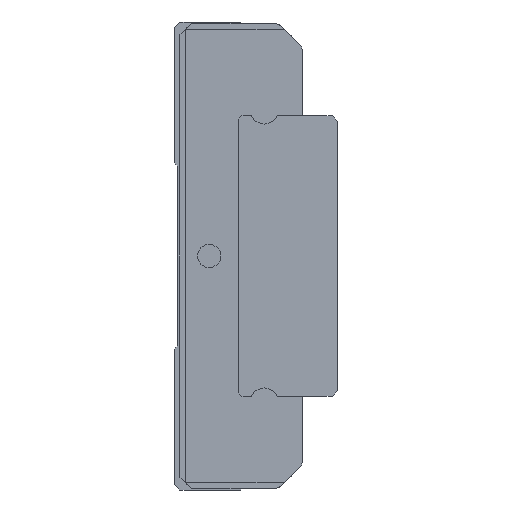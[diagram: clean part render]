
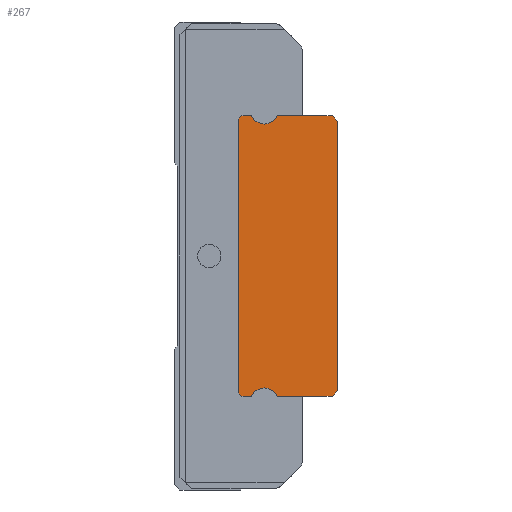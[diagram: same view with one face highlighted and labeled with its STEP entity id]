
A CAD part, left-side view. The second image highlights one B-rep face of the part: STEP entity #267.
In plain terms, the highlighted planar face has unit normal (-1, 0, 0).
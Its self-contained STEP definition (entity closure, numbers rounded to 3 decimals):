
#267 = ADVANCED_FACE( '', ( #758 ), #759, .F. );
#758 = FACE_OUTER_BOUND( '', #1381, .T. );
#759 = PLANE( '', #1382 );
#1381 = EDGE_LOOP( '', ( #2763, #2764, #2765, #2766, #2767, #2768, #2769, #2770, #2771, #2772, #2773, #2774, #2775, #2776, #2777, #2778, #2779, #2780 ) );
#1382 = AXIS2_PLACEMENT_3D( '', #2781, #2782, #2783 );
#2763 = ORIENTED_EDGE( '', *, *, #4167, .F. );
#2764 = ORIENTED_EDGE( '', *, *, #4116, .F. );
#2765 = ORIENTED_EDGE( '', *, *, #4120, .F. );
#2766 = ORIENTED_EDGE( '', *, *, #4123, .F. );
#2767 = ORIENTED_EDGE( '', *, *, #4126, .F. );
#2768 = ORIENTED_EDGE( '', *, *, #4129, .F. );
#2769 = ORIENTED_EDGE( '', *, *, #4132, .F. );
#2770 = ORIENTED_EDGE( '', *, *, #4135, .F. );
#2771 = ORIENTED_EDGE( '', *, *, #4138, .F. );
#2772 = ORIENTED_EDGE( '', *, *, #4141, .F. );
#2773 = ORIENTED_EDGE( '', *, *, #4144, .F. );
#2774 = ORIENTED_EDGE( '', *, *, #4147, .F. );
#2775 = ORIENTED_EDGE( '', *, *, #4150, .F. );
#2776 = ORIENTED_EDGE( '', *, *, #4153, .F. );
#2777 = ORIENTED_EDGE( '', *, *, #4156, .F. );
#2778 = ORIENTED_EDGE( '', *, *, #4159, .F. );
#2779 = ORIENTED_EDGE( '', *, *, #4162, .F. );
#2780 = ORIENTED_EDGE( '', *, *, #4165, .F. );
#2781 = CARTESIAN_POINT( '', ( -20., 0., 0. ) );
#2782 = DIRECTION( '', ( 1., 0., 0. ) );
#2783 = DIRECTION( '', ( 0., 0., -1. ) );
#4116 = EDGE_CURVE( '', #4997, #4999, #5000, .T. );
#4120 = EDGE_CURVE( '', #5004, #4997, #5006, .T. );
#4123 = EDGE_CURVE( '', #5009, #5004, #5011, .T. );
#4126 = EDGE_CURVE( '', #5014, #5009, #5016, .T. );
#4129 = EDGE_CURVE( '', #5019, #5014, #5021, .T. );
#4132 = EDGE_CURVE( '', #5024, #5019, #5026, .T. );
#4135 = EDGE_CURVE( '', #5029, #5024, #5031, .T. );
#4138 = EDGE_CURVE( '', #5034, #5029, #5036, .T. );
#4141 = EDGE_CURVE( '', #5039, #5034, #5041, .T. );
#4144 = EDGE_CURVE( '', #5044, #5039, #5046, .T. );
#4147 = EDGE_CURVE( '', #5049, #5044, #5051, .T. );
#4150 = EDGE_CURVE( '', #5054, #5049, #5056, .T. );
#4153 = EDGE_CURVE( '', #5059, #5054, #5061, .T. );
#4156 = EDGE_CURVE( '', #5064, #5059, #5066, .T. );
#4159 = EDGE_CURVE( '', #5069, #5064, #5071, .T. );
#4162 = EDGE_CURVE( '', #5074, #5069, #5076, .T. );
#4165 = EDGE_CURVE( '', #5079, #5074, #5081, .T. );
#4167 = EDGE_CURVE( '', #4999, #5079, #5083, .T. );
#4997 = VERTEX_POINT( '', #6222 );
#4999 = VERTEX_POINT( '', #6225 );
#5000 = LINE( '', #6226, #6227 );
#5004 = VERTEX_POINT( '', #6232 );
#5006 = CIRCLE( '', #6235, 0.15 );
#5009 = VERTEX_POINT( '', #6238 );
#5011 = CIRCLE( '', #6241, 1.38 );
#5014 = VERTEX_POINT( '', #6244 );
#5016 = CIRCLE( '', #6247, 1.38 );
#5019 = VERTEX_POINT( '', #6250 );
#5021 = CIRCLE( '', #6253, 0.15 );
#5024 = VERTEX_POINT( '', #6257 );
#5026 = LINE( '', #6260, #6261 );
#5029 = VERTEX_POINT( '', #6265 );
#5031 = LINE( '', #6268, #6269 );
#5034 = VERTEX_POINT( '', #6273 );
#5036 = LINE( '', #6276, #6277 );
#5039 = VERTEX_POINT( '', #6281 );
#5041 = LINE( '', #6284, #6285 );
#5044 = VERTEX_POINT( '', #6289 );
#5046 = LINE( '', #6292, #6293 );
#5049 = VERTEX_POINT( '', #6296 );
#5051 = CIRCLE( '', #6299, 0.15 );
#5054 = VERTEX_POINT( '', #6302 );
#5056 = CIRCLE( '', #6305, 1.38 );
#5059 = VERTEX_POINT( '', #6308 );
#5061 = CIRCLE( '', #6311, 1.38 );
#5064 = VERTEX_POINT( '', #6314 );
#5066 = CIRCLE( '', #6317, 0.15 );
#5069 = VERTEX_POINT( '', #6321 );
#5071 = LINE( '', #6324, #6325 );
#5074 = VERTEX_POINT( '', #6329 );
#5076 = LINE( '', #6332, #6333 );
#5079 = VERTEX_POINT( '', #6337 );
#5081 = LINE( '', #6340, #6341 );
#5083 = LINE( '', #6344, #6345 );
#6222 = CARTESIAN_POINT( '', ( -20., 5.08, 12. ) );
#6225 = CARTESIAN_POINT( '', ( -20., 0.5, 12. ) );
#6226 = CARTESIAN_POINT( '', ( -20., 5.08, 12. ) );
#6227 = VECTOR( '', #7824, 1. );
#6232 = CARTESIAN_POINT( '', ( -20., 5.208, 11.927 ) );
#6235 = AXIS2_PLACEMENT_3D( '', #7830, #7831, #7832 );
#6238 = CARTESIAN_POINT( '', ( -20., 6.3, 11.263 ) );
#6241 = AXIS2_PLACEMENT_3D( '', #7837, #7838, #7839 );
#6244 = CARTESIAN_POINT( '', ( -20., 7.392, 11.927 ) );
#6247 = AXIS2_PLACEMENT_3D( '', #7844, #7845, #7846 );
#6250 = CARTESIAN_POINT( '', ( -20., 7.52, 12. ) );
#6253 = AXIS2_PLACEMENT_3D( '', #7851, #7852, #7853 );
#6257 = CARTESIAN_POINT( '', ( -20., 8.2, 12. ) );
#6260 = CARTESIAN_POINT( '', ( -20., 8.2, 12. ) );
#6261 = VECTOR( '', #7856, 1. );
#6265 = CARTESIAN_POINT( '', ( -20., 8.5, 11.7 ) );
#6268 = CARTESIAN_POINT( '', ( -20., 8.5, 11.7 ) );
#6269 = VECTOR( '', #7859, 1. );
#6273 = CARTESIAN_POINT( '', ( -20., 8.5, -11.7 ) );
#6276 = CARTESIAN_POINT( '', ( -20., 8.5, -11.7 ) );
#6277 = VECTOR( '', #7862, 1. );
#6281 = CARTESIAN_POINT( '', ( -20., 8.2, -12. ) );
#6284 = CARTESIAN_POINT( '', ( -20., 8.2, -12. ) );
#6285 = VECTOR( '', #7865, 1. );
#6289 = CARTESIAN_POINT( '', ( -20., 7.52, -12. ) );
#6292 = CARTESIAN_POINT( '', ( -20., 7.52, -12. ) );
#6293 = VECTOR( '', #7868, 1. );
#6296 = CARTESIAN_POINT( '', ( -20., 7.392, -11.927 ) );
#6299 = AXIS2_PLACEMENT_3D( '', #7873, #7874, #7875 );
#6302 = CARTESIAN_POINT( '', ( -20., 6.3, -11.263 ) );
#6305 = AXIS2_PLACEMENT_3D( '', #7880, #7881, #7882 );
#6308 = CARTESIAN_POINT( '', ( -20., 5.208, -11.927 ) );
#6311 = AXIS2_PLACEMENT_3D( '', #7887, #7888, #7889 );
#6314 = CARTESIAN_POINT( '', ( -20., 5.08, -12. ) );
#6317 = AXIS2_PLACEMENT_3D( '', #7894, #7895, #7896 );
#6321 = CARTESIAN_POINT( '', ( -20., 0.5, -12. ) );
#6324 = CARTESIAN_POINT( '', ( -20., 0.5, -12. ) );
#6325 = VECTOR( '', #7899, 1. );
#6329 = CARTESIAN_POINT( '', ( -20., 0., -11.5 ) );
#6332 = CARTESIAN_POINT( '', ( -20., 0., -11.5 ) );
#6333 = VECTOR( '', #7902, 1. );
#6337 = CARTESIAN_POINT( '', ( -20., 0., 11.5 ) );
#6340 = CARTESIAN_POINT( '', ( -20., 0., 11.5 ) );
#6341 = VECTOR( '', #7905, 1. );
#6344 = CARTESIAN_POINT( '', ( -20., 0.5, 12. ) );
#6345 = VECTOR( '', #7907, 1. );
#7824 = DIRECTION( '', ( 0., -1., 0. ) );
#7830 = CARTESIAN_POINT( '', ( -20., 5.08, 11.85 ) );
#7831 = DIRECTION( '', ( 1., 0., 0. ) );
#7832 = DIRECTION( '', ( 0., 0.856, 0.516 ) );
#7837 = CARTESIAN_POINT( '', ( -20., 6.39, 12.64 ) );
#7838 = DIRECTION( '', ( -1., 0., 0. ) );
#7839 = DIRECTION( '', ( 0., -0.065, -0.998 ) );
#7844 = CARTESIAN_POINT( '', ( -20., 6.21, 12.64 ) );
#7845 = DIRECTION( '', ( -1., 0., 0. ) );
#7846 = DIRECTION( '', ( 0., 0.856, -0.516 ) );
#7851 = CARTESIAN_POINT( '', ( -20., 7.52, 11.85 ) );
#7852 = DIRECTION( '', ( 1., 0., 0. ) );
#7853 = DIRECTION( '', ( 0., 0., 1. ) );
#7856 = DIRECTION( '', ( 0., -1., 0. ) );
#7859 = DIRECTION( '', ( 0., -0.707, 0.707 ) );
#7862 = DIRECTION( '', ( 0., 0., 1. ) );
#7865 = DIRECTION( '', ( 0., 0.707, 0.707 ) );
#7868 = DIRECTION( '', ( 0., 1., 0. ) );
#7873 = CARTESIAN_POINT( '', ( -20., 7.52, -11.85 ) );
#7874 = DIRECTION( '', ( 1., 0., 0. ) );
#7875 = DIRECTION( '', ( 0., -0.856, -0.516 ) );
#7880 = CARTESIAN_POINT( '', ( -20., 6.21, -12.64 ) );
#7881 = DIRECTION( '', ( -1., 0., 0. ) );
#7882 = DIRECTION( '', ( 0., 0.065, 0.998 ) );
#7887 = CARTESIAN_POINT( '', ( -20., 6.39, -12.64 ) );
#7888 = DIRECTION( '', ( -1., 0., 0. ) );
#7889 = DIRECTION( '', ( 0., -0.856, 0.516 ) );
#7894 = CARTESIAN_POINT( '', ( -20., 5.08, -11.85 ) );
#7895 = DIRECTION( '', ( 1., 0., 0. ) );
#7896 = DIRECTION( '', ( 0., 0., -1. ) );
#7899 = DIRECTION( '', ( 0., 1., 0. ) );
#7902 = DIRECTION( '', ( 0., 0.707, -0.707 ) );
#7905 = DIRECTION( '', ( 0., 0., -1. ) );
#7907 = DIRECTION( '', ( 0., -0.707, -0.707 ) );
